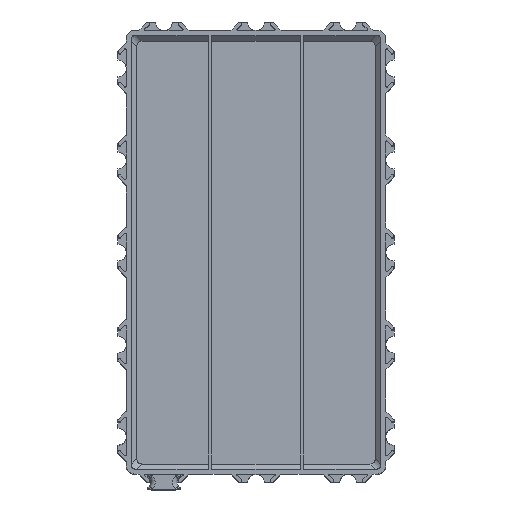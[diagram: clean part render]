
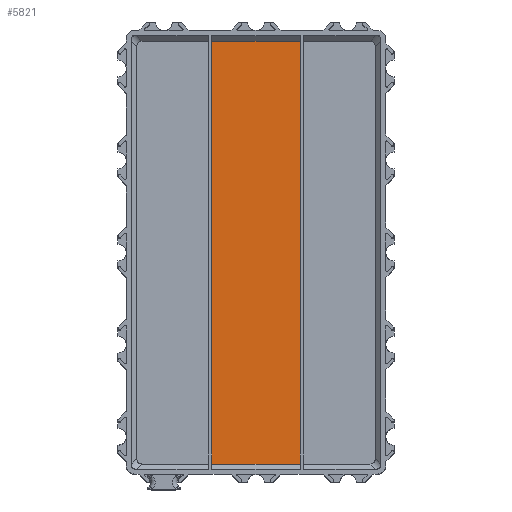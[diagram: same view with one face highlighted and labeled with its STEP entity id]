
A CAD part, top view. The second image highlights one B-rep face of the part: STEP entity #5821.
In plain terms, the highlighted planar face has unit normal (0, 0, 1).
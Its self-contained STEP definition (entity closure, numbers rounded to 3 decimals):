
#466=FACE_OUTER_BOUND('',#771,.T.);
#771=EDGE_LOOP('',(#3629,#3630,#3631,#3632));
#1086=LINE('',#8553,#1638);
#1090=LINE('',#8562,#1642);
#1092=LINE('',#8566,#1644);
#1093=LINE('',#8567,#1645);
#1638=VECTOR('',#6772,10.);
#1642=VECTOR('',#6780,10.);
#1644=VECTOR('',#6784,10.);
#1645=VECTOR('',#6785,10.);
#2186=VERTEX_POINT('',#8543);
#2190=VERTEX_POINT('',#8551);
#2193=VERTEX_POINT('',#8561);
#2194=VERTEX_POINT('',#8565);
#2756=EDGE_CURVE('',#2186,#2190,#1086,.T.);
#2760=EDGE_CURVE('',#2193,#2186,#1090,.T.);
#2762=EDGE_CURVE('',#2190,#2194,#1092,.T.);
#2763=EDGE_CURVE('',#2194,#2193,#1093,.T.);
#3629=ORIENTED_EDGE('',*,*,#2756,.T.);
#3630=ORIENTED_EDGE('',*,*,#2762,.T.);
#3631=ORIENTED_EDGE('',*,*,#2763,.T.);
#3632=ORIENTED_EDGE('',*,*,#2760,.T.);
#5341=PLANE('',#6150);
#5821=ADVANCED_FACE('',(#466),#5341,.F.);
#6150=AXIS2_PLACEMENT_3D('',#8564,#6782,#6783);
#6772=DIRECTION('',(0.,1.,0.));
#6780=DIRECTION('',(1.,0.,0.));
#6782=DIRECTION('center_axis',(0.,0.,-1.));
#6783=DIRECTION('ref_axis',(-1.,0.,0.));
#6784=DIRECTION('',(-1.,0.,0.));
#6785=DIRECTION('',(0.,-1.,0.));
#8543=CARTESIAN_POINT('',(43.6,4.497,-60.));
#8551=CARTESIAN_POINT('',(43.6,105.503,-60.));
#8553=CARTESIAN_POINT('',(43.6,55.,-60.));
#8561=CARTESIAN_POINT('',(22.4,4.497,-60.));
#8562=CARTESIAN_POINT('',(40.75,4.497,-60.));
#8564=CARTESIAN_POINT('Origin',(33.,55.,-60.));
#8565=CARTESIAN_POINT('',(22.4,105.503,-60.));
#8566=CARTESIAN_POINT('',(25.25,105.503,-60.));
#8567=CARTESIAN_POINT('',(22.4,55.,-60.));
